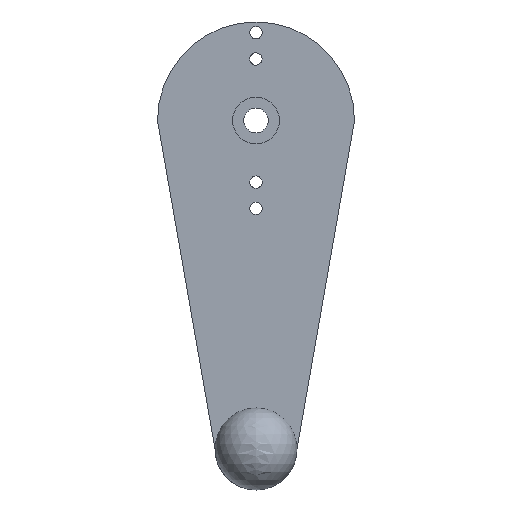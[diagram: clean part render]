
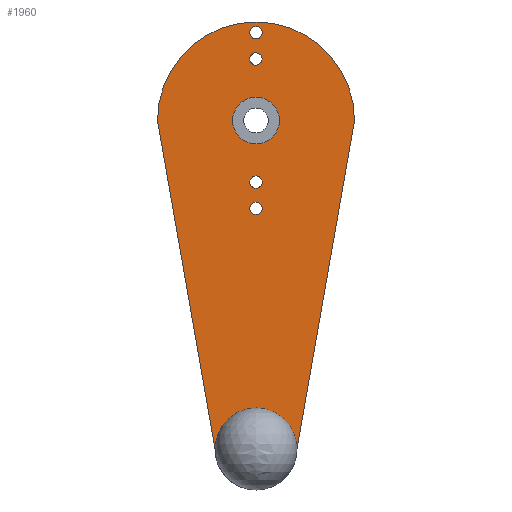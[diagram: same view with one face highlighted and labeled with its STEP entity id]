
A CAD part, left-side view. The second image highlights one B-rep face of the part: STEP entity #1960.
In plain terms, the highlighted planar face has unit normal (-1, 0, 0).
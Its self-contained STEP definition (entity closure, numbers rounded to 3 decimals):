
#26=FACE_BOUND('',#294,.T.);
#27=FACE_BOUND('',#295,.T.);
#28=FACE_BOUND('',#296,.T.);
#29=FACE_BOUND('',#297,.T.);
#30=FACE_BOUND('',#298,.T.);
#31=FACE_BOUND('',#299,.T.);
#92=PLANE('',#2136);
#183=FACE_OUTER_BOUND('',#293,.T.);
#293=EDGE_LOOP('',(#1762,#1763,#1764,#1765));
#294=EDGE_LOOP('',(#1766));
#295=EDGE_LOOP('',(#1767));
#296=EDGE_LOOP('',(#1768));
#297=EDGE_LOOP('',(#1769));
#298=EDGE_LOOP('',(#1770));
#299=EDGE_LOOP('',(#1771));
#327=CIRCLE('',#1996,2.85);
#387=CIRCLE('',#2137,12.);
#388=CIRCLE('',#2138,5.);
#389=CIRCLE('',#2139,0.75);
#390=CIRCLE('',#2140,0.75);
#391=CIRCLE('',#2141,0.75);
#392=CIRCLE('',#2142,0.75);
#393=CIRCLE('',#2143,3.);
#584=LINE('',#3259,#781);
#585=LINE('',#3263,#782);
#781=VECTOR('',#2672,40.608);
#782=VECTOR('',#2675,40.608);
#807=VERTEX_POINT('',#2775);
#969=VERTEX_POINT('',#3257);
#970=VERTEX_POINT('',#3258);
#971=VERTEX_POINT('',#3260);
#972=VERTEX_POINT('',#3262);
#973=VERTEX_POINT('',#3265);
#974=VERTEX_POINT('',#3267);
#975=VERTEX_POINT('',#3269);
#976=VERTEX_POINT('',#3271);
#977=VERTEX_POINT('',#3273);
#1004=EDGE_CURVE('',#807,#807,#327,.T.);
#1242=EDGE_CURVE('',#969,#970,#584,.T.);
#1243=EDGE_CURVE('',#971,#969,#387,.T.);
#1244=EDGE_CURVE('',#971,#972,#585,.T.);
#1245=EDGE_CURVE('',#970,#972,#388,.T.);
#1246=EDGE_CURVE('',#973,#973,#389,.T.);
#1247=EDGE_CURVE('',#974,#974,#390,.T.);
#1248=EDGE_CURVE('',#975,#975,#391,.T.);
#1249=EDGE_CURVE('',#976,#976,#392,.T.);
#1250=EDGE_CURVE('',#977,#977,#393,.T.);
#1762=ORIENTED_EDGE('',*,*,#1242,.F.);
#1763=ORIENTED_EDGE('',*,*,#1243,.F.);
#1764=ORIENTED_EDGE('',*,*,#1244,.T.);
#1765=ORIENTED_EDGE('',*,*,#1245,.F.);
#1766=ORIENTED_EDGE('',*,*,#1004,.F.);
#1767=ORIENTED_EDGE('',*,*,#1246,.T.);
#1768=ORIENTED_EDGE('',*,*,#1247,.T.);
#1769=ORIENTED_EDGE('',*,*,#1248,.T.);
#1770=ORIENTED_EDGE('',*,*,#1249,.T.);
#1771=ORIENTED_EDGE('',*,*,#1250,.F.);
#1960=ADVANCED_FACE('',(#183,#26,#27,#28,#29,#30,#31),#92,.F.);
#1996=AXIS2_PLACEMENT_3D('',#2777,#2212,#2213);
#2136=AXIS2_PLACEMENT_3D('',#3256,#2670,#2671);
#2137=AXIS2_PLACEMENT_3D('',#3261,#2673,#2674);
#2138=AXIS2_PLACEMENT_3D('',#3264,#2676,#2677);
#2139=AXIS2_PLACEMENT_3D('',#3266,#2678,#2679);
#2140=AXIS2_PLACEMENT_3D('',#3268,#2680,#2681);
#2141=AXIS2_PLACEMENT_3D('',#3270,#2682,#2683);
#2142=AXIS2_PLACEMENT_3D('',#3272,#2684,#2685);
#2143=AXIS2_PLACEMENT_3D('',#3274,#2686,#2687);
#2212=DIRECTION('center_axis',(-1.,0.,0.));
#2213=DIRECTION('ref_axis',(0.,0.,-1.));
#2670=DIRECTION('center_axis',(1.,0.,0.));
#2671=DIRECTION('ref_axis',(0.,0.,-1.));
#2672=DIRECTION('',(0.,0.172,-0.985));
#2673=DIRECTION('center_axis',(1.,0.,0.));
#2674=DIRECTION('ref_axis',(0.,0.,-1.));
#2675=DIRECTION('',(0.,-0.172,-0.985));
#2676=DIRECTION('center_axis',(1.,0.,0.));
#2677=DIRECTION('ref_axis',(0.,0.,-1.));
#2678=DIRECTION('center_axis',(1.,0.,0.));
#2679=DIRECTION('ref_axis',(0.,0.,-1.));
#2680=DIRECTION('center_axis',(1.,0.,0.));
#2681=DIRECTION('ref_axis',(0.,0.,-1.));
#2682=DIRECTION('center_axis',(1.,0.,0.));
#2683=DIRECTION('ref_axis',(0.,0.,-1.));
#2684=DIRECTION('center_axis',(1.,0.,0.));
#2685=DIRECTION('ref_axis',(0.,0.,-1.));
#2686=DIRECTION('center_axis',(-1.,0.,0.));
#2687=DIRECTION('ref_axis',(0.,0.,1.));
#2775=CARTESIAN_POINT('',(13.,3.,39.85));
#2777=CARTESIAN_POINT('Origin',(13.,3.,37.));
#3256=CARTESIAN_POINT('Origin',(13.,0.,0.));
#3257=CARTESIAN_POINT('',(13.,-9.,37.));
#3258=CARTESIAN_POINT('',(13.,-2.,-3.));
#3259=CARTESIAN_POINT('',(13.,-9.,37.));
#3260=CARTESIAN_POINT('',(13.,15.,37.));
#3261=CARTESIAN_POINT('Origin',(13.,3.,37.));
#3262=CARTESIAN_POINT('',(13.,8.,-3.));
#3263=CARTESIAN_POINT('',(13.,15.,37.));
#3264=CARTESIAN_POINT('Origin',(13.,3.,-3.));
#3265=CARTESIAN_POINT('',(13.,2.998,48.45));
#3266=CARTESIAN_POINT('Origin',(13.,2.998,47.7));
#3267=CARTESIAN_POINT('',(13.,3.014,45.25));
#3268=CARTESIAN_POINT('Origin',(13.,3.014,44.5));
#3269=CARTESIAN_POINT('',(13.,3.,30.25));
#3270=CARTESIAN_POINT('Origin',(13.,3.,29.5));
#3271=CARTESIAN_POINT('',(13.,3.,27.05));
#3272=CARTESIAN_POINT('Origin',(13.,3.,26.3));
#3273=CARTESIAN_POINT('',(13.,3.,-6.));
#3274=CARTESIAN_POINT('Origin',(13.,3.,-3.));
